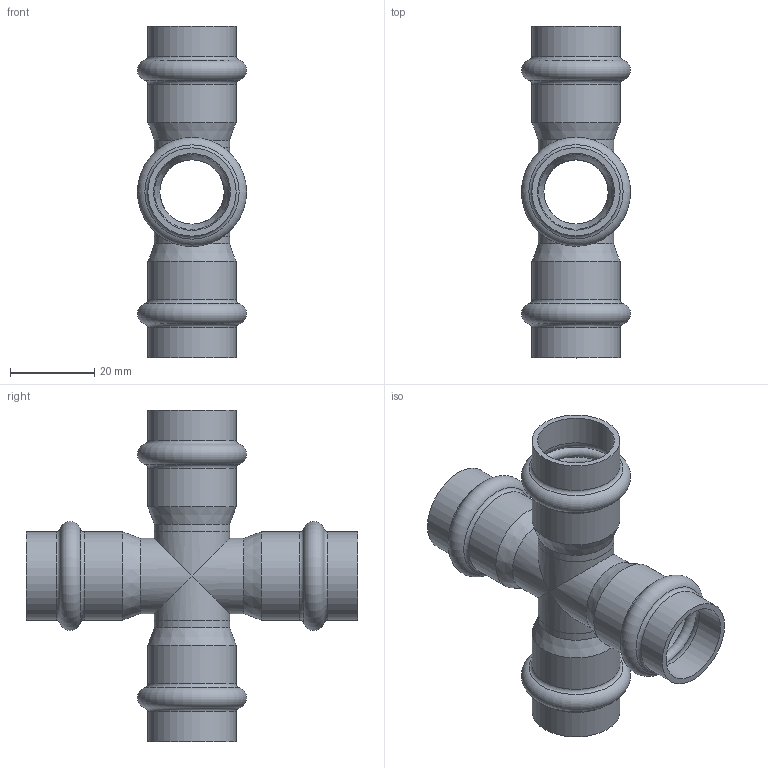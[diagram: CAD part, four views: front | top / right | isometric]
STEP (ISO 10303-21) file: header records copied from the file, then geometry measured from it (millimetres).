
FILE_DESCRIPTION(('STEP AP203'), '1');
FILE_NAME('ÂÐ.302669.007.000 ÑÁ - VTi.941.I.001818 Êðåñò. Äó18', '2024-02-29T12:42:21', ('User'), ('Vesta'), 'C3D Converter', 'C3D Toolkit', '');
FILE_SCHEMA(('CONFIG_CONTROL_DESIGN'));
Length unit declared in the file: millimetre
Products named in the file (4): ВР.302669.007.000 СБ; ВР.735542.006; ВР.735542.002
Assembly tree (7 placements, depth 2):
  ВР.302669.007.000 СБ
    ВР.735542.006
    ВР.735542.002  x2
    (unnamed)  x4
Bounding box: 25.99 x 79 x 79 mm (x, y, z)
Volume: 13533.4 mm3; surface area: 20718.4 mm2
Topology: 7 solids, 7 shells, 72 faces, 146 edges, 78 vertices
Faces by surface type: cylinder 28, torus 28, plane 8, cone 8
Full cylindrical faces by diameter (mm): 15.3 x6, 18 x6, 18.3 x8, 21 x8
Entity records: 1895 total; most frequent: CARTESIAN_POINT 225, DIRECTION 220, ORIENTED_EDGE 128, AXIS2_PLACEMENT_3D 109, EDGE_LOOP 102, FACE_OUTER_BOUND 80, EDGE_CURVE 64, VERTEX_POINT 58
